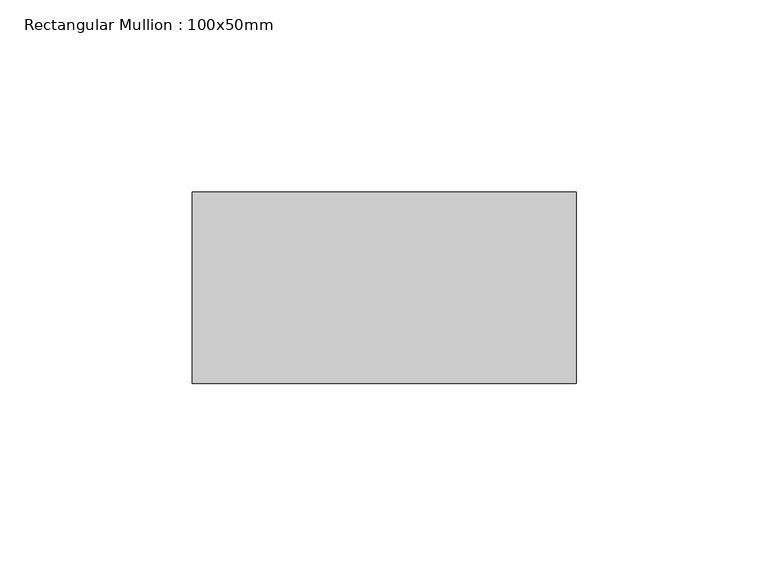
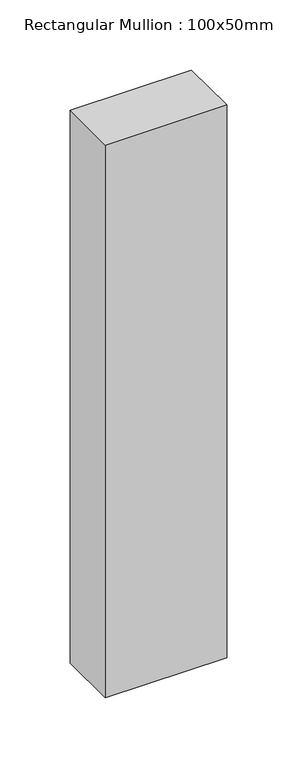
"""IFC4 building model written with IfcOpenShell, lengths in millimetres: member geometry, Rectangular Mullion : 100x50mm."""

from ifc_helpers import new_model, si_unit, frame, origin, place, context, project, spatial, polyline, outline, extrude, source, transform, mapped, element, save


def rectangular_mullion_100x50mm_db67ff79(model_context):
    return source(origin(), model_context, "Body", "SweptSolid", [
        extrude(outline(polyline([(50.0, 25.0), (50.0, -25.0), (-50.0, -25.0), (-50.0, 25.0), (50.0, 25.0)])), frame((0.0, 0.0, -481.4890237), z_axis=(0.0, 0.0, 1.0), x_axis=(1.0, 0.0, 0.0)), (0.0, 0.0, 1.0), 481.4890237),
    ])


if __name__ == "__main__":
    model = new_model("IFC4")
    model_context = context("Model", 3, world=origin())
    ifc_project = project(units=[si_unit("LENGTHUNIT", "METRE", prefix="MILLI")], contexts=[model_context])
    site = spatial("IfcSite", under=ifc_project)
    building = spatial("IfcBuilding", under=site)
    placement = place(None, origin())
    rectangular_mullion_100x50mm_shape = rectangular_mullion_100x50mm_db67ff79(model_context)
    element("IfcMember", 1, ObjectType="Rectangular Mullion : 100x50mm", at=placement, inside=building, context=model_context, shape_type="MappedRepresentation", body=[
        mapped(rectangular_mullion_100x50mm_shape, transform((0.0, 0.0, 0.0), x_axis=(1.0, 0.0, 0.0), y_axis=(0.0, 1.0, 0.0), z_axis=(0.0, 0.0, 1.0))),
    ])
    save(model, "model.ifc")
